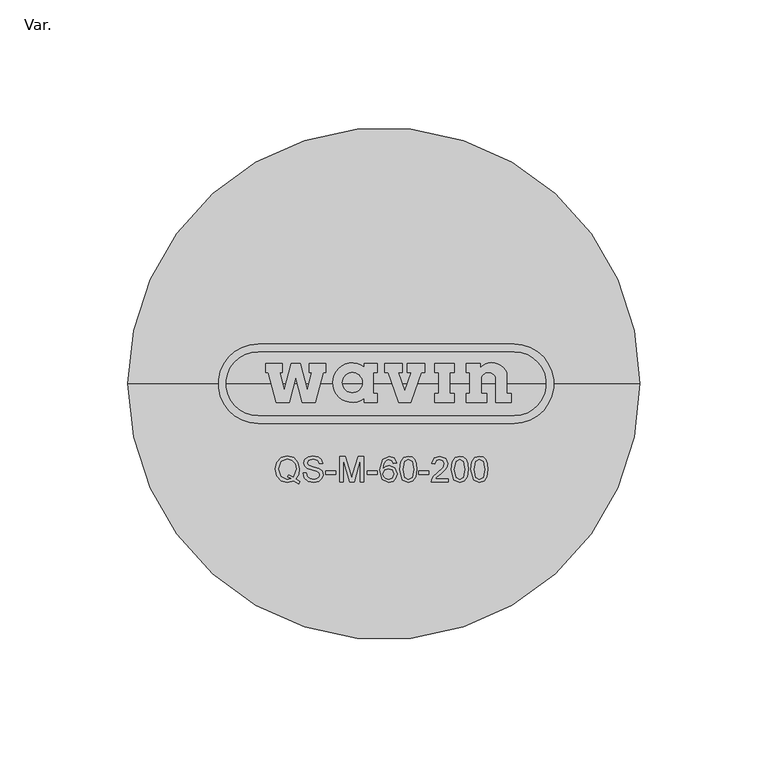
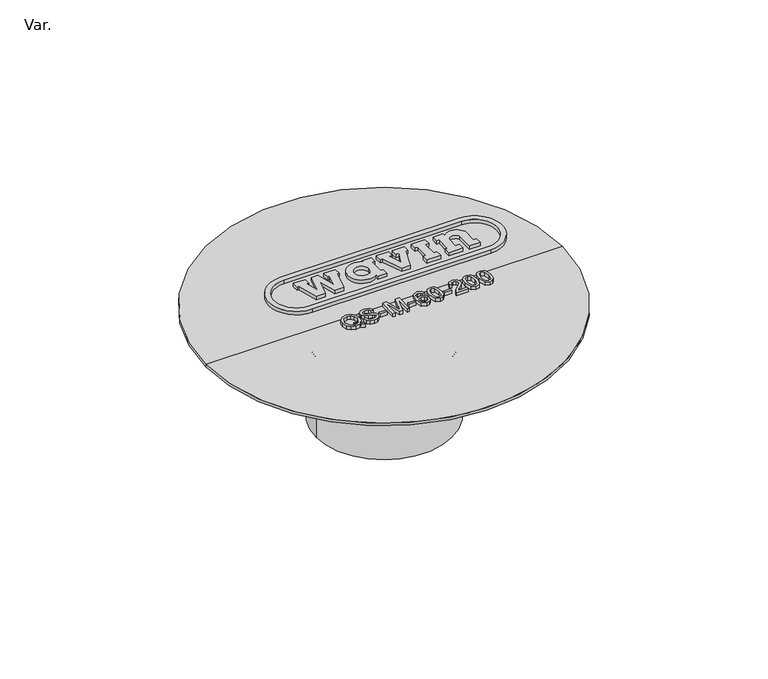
"""IFC4 building model written with IfcOpenShell, lengths in millimetres: sanitary terminal geometry, AmancoWavin_AquipamentosHidráulicos_QSBocaldeCaptação : Var.."""

from ifc_helpers import new_model, si_unit, point, frame, frame_2d, origin, place, context, project, spatial, polyline, circle_curve, ellipse_curve, trimmed, segment, composite_curve, outline, extrude, source, transform, mapped, element, save
from ifc_brep_helpers import plane_surface, cylinder_surface, revolved_surface, advanced_brep


def var_37cc0f51(model_context):
    return source(origin(), model_context, "Body", "SolidModel", [
        extrude(outline(composite_curve([segment(trimmed(circle_curve(frame_2d((50.8526232, 0.0)), 15.4893844), [point((50.8526232, 15.4893844))], [point((50.8526232, -15.4893844))], False, "CARTESIAN"), True, "CONTINUOUS"), segment(polyline([(50.8526232, -15.4893844), (-49.1473768, -15.4893844)]), True, "CONTINUOUS"), segment(trimmed(circle_curve(frame_2d((-49.1473768, 0.0)), 15.4893844), [point((-49.1473768, -15.4893844))], [point((-49.1473768, 15.4893844))], False, "CARTESIAN"), True, "CONTINUOUS"), segment(polyline([(-49.1473768, 15.4893844), (50.8526232, 15.4893844)]), True, "CONTINUOUS")], self_intersect=False), holes=[composite_curve([segment(polyline([(50.8526232, 12.4893844), (-49.1473768, 12.4893844)]), True, "CONTINUOUS"), segment(trimmed(circle_curve(frame_2d((-49.1473768, 0.0)), 12.4893844), [point((-49.1473768, 12.4893844))], [point((-49.1473768, -12.4893844))], True, "CARTESIAN"), True, "CONTINUOUS"), segment(polyline([(-49.1473768, -12.4893844), (50.8526232, -12.4893844)]), True, "CONTINUOUS"), segment(trimmed(circle_curve(frame_2d((50.8526232, 0.0)), 12.4893844), [point((50.8526232, -12.4893844))], [point((50.8526232, 12.4893844))], True, "CARTESIAN"), True, "CONTINUOUS")], self_intersect=False)]), frame((0.0, 0.0, 23.96875), z_axis=(0.0, 0.0, 1.0), x_axis=(1.0, 0.0, 0.0)), (0.0, 0.0, 1.0), 2.0),
        extrude(outline(polyline([(-39.7705089, 7.8291409), (-39.7705089, 4.3291409), (-40.7705089, 4.3291409), (-38.9632887, -2.4154967), (-36.2182463, 7.8291409), (-32.7477543, 7.8291409), (-30.0027119, -2.4154967), (-28.1954917, 4.3291409), (-29.1954917, 4.3291409), (-29.1954917, 7.8291409), (-22.6954917, 7.8291409), (-22.6954917, 4.3291409), (-23.6954917, 4.3291409), (-26.7948098, -7.2376719), (-31.8948098, -7.2376719), (-34.4830003, 2.4215864), (-37.0711907, -7.2376719), (-42.1711907, -7.2376719), (-45.2705089, 4.3291409), (-46.2705089, 4.3291409), (-46.2705089, 7.8291409), (-39.7705089, 7.8291409)])), frame((0.0, 0.0, 23.96875), z_axis=(0.0, 0.0, 1.0), x_axis=(1.0, 0.0, 0.0)), (0.0, 0.0, 1.0), 2.0),
        extrude(outline(composite_curve([segment(trimmed(circle_curve(frame_2d((-12.3300246, 0.4291409)), 7.7), [point((-7.6954917, -5.7199325))], [point((-7.6954917, 6.5782144))], False, "CARTESIAN"), True, "CONTINUOUS"), segment(polyline([(-7.6954917, 6.5782144), (-7.6954917, 7.8291409), (-2.6954917, 7.8291409), (-2.6954917, 4.3291409), (-4.1758448, 4.3291409), (-4.1758448, -3.7257164), (-2.6954917, -3.7257164), (-2.6954917, -7.2376719), (-7.6954917, -7.2376719), (-7.6954917, -5.7199325)]), True, "CONTINUOUS")], self_intersect=False), holes=[composite_curve([segment(trimmed(circle_curve(frame_2d((-12.3300246, 0.4291409)), 3.9), [point((-8.4300246, 0.4291409))], [point((-16.2300246, 0.4291409))], True, "CARTESIAN"), True, "CONTINUOUS"), segment(trimmed(circle_curve(frame_2d((-12.3300246, 0.4291409)), 3.9), [point((-16.2300246, 0.4291409))], [point((-8.4300246, 0.4291409))], True, "CARTESIAN"), True, "CONTINUOUS")], self_intersect=False)]), frame((0.0, 0.0, 23.96875), z_axis=(0.0, 0.0, 1.0), x_axis=(1.0, 0.0, 0.0)), (0.0, 0.0, 1.0), 2.0),
        extrude(outline(polyline([(7.1044911, 7.8291409), (7.1044911, 4.3291409), (5.4794911, 4.3291409), (8.1144667, -2.9103949), (10.7494422, 4.3291409), (9.1244422, 4.3291409), (9.1244422, 7.8291409), (15.9369422, 7.8291409), (15.9369422, 4.3291409), (14.6244422, 4.3291409), (10.4144667, -7.2376719), (5.8144667, -7.2376719), (1.6044911, 4.3291409), (0.2919911, 4.3291409), (0.2919911, 7.8291409), (7.1044911, 7.8291409)])), frame((0.0, 0.0, 23.96875), z_axis=(0.0, 0.0, 1.0), x_axis=(1.0, 0.0, 0.0)), (0.0, 0.0, 1.0), 2.0),
        extrude(outline(polyline([(27.5254827, 7.8291409), (27.5254827, 4.3291409), (25.6649059, 4.3291409), (25.6649059, -3.7257164), (27.5254827, -3.7257164), (27.5254827, -7.2376719), (19.8599065, -7.2376719), (19.8599065, -3.7257164), (21.3483679, -3.7257164), (21.3483679, 4.3291409), (19.8599065, 4.3291409), (19.8599065, 7.8291409), (27.5254827, 7.8291409)])), frame((0.0, 0.0, 23.96875), z_axis=(0.0, 0.0, 1.0), x_axis=(1.0, 0.0, 0.0)), (0.0, 0.0, 1.0), 2.0),
        extrude(outline(composite_curve([segment(polyline([(32.2129827, 4.3291409), (32.2129827, 7.8291409), (37.5254827, 7.8291409), (37.5254827, 6.1216703)]), True, "CONTINUOUS"), segment(trimmed(circle_curve(frame_2d((42.1947832, 1.9648863)), 6.2514974), [point((37.5254827, 6.1216703))], [point((47.981969, 4.3291409))], False, "CARTESIAN"), True, "CONTINUOUS"), segment(polyline([(47.981969, 4.3291409), (47.981969, -3.7257164), (49.7436066, -3.7257164), (49.7436066, -7.2376719), (43.6757439, -7.2376719), (43.6757439, 2.455043)]), True, "CONTINUOUS"), segment(trimmed(circle_curve(frame_2d((40.8074114, 1.2445059)), 3.1133152), [point((43.6757439, 2.455043))], [point((37.9390789, 2.455043))], True, "CARTESIAN"), True, "CONTINUOUS"), segment(polyline([(37.9390789, 2.455043), (37.9390789, -3.7257164), (40.0652776, -3.7257164), (40.0652776, -7.2376719), (32.2129827, -7.2376719), (32.2129827, -3.7257164), (33.4254827, -3.7257164), (33.4254827, 4.3291409), (32.2129827, 4.3291409)]), True, "CONTINUOUS")], self_intersect=False)), frame((0.0, 0.0, 23.96875), z_axis=(0.0, 0.0, 1.0), x_axis=(1.0, 0.0, 0.0)), (0.0, 0.0, 1.0), 2.0),
        advanced_brep(
        [(-100.0, 0.0, 0.0), (100.0, 0.0, 0.0), (0.0, 0.0, 0.0), (-100.0, 0.0, 1.5), (100.0, 0.0, 1.5), (0.0, 0.0, 1.5)],
        [
            (0, 1, circle_curve(frame((0.0, 0.0, 0.0), z_axis=(0.0, 0.0, -1.0), x_axis=(1.0, 0.0, 0.0)), 100.0)),
            (1, 2),
            (2, 0),
            (1, 0, circle_curve(frame((0.0, 0.0, 0.0), z_axis=(0.0, 0.0, -1.0), x_axis=(1.0, 0.0, 0.0)), 100.0)),
            (3, 4, circle_curve(frame((0.0, 0.0, 1.5), z_axis=(0.0, 0.0, -1.0), x_axis=(1.0, 0.0, 0.0)), 100.0)),
            (4, 1),
            (0, 3),
            (4, 3, circle_curve(frame((0.0, 0.0, 1.5), z_axis=(0.0, 0.0, -1.0), x_axis=(1.0, 0.0, 0.0)), 100.0)),
            (5, 4),
            (3, 5),
        ],
        [
            plane_surface(frame((0.0, 0.0, 0.0), z_axis=(0.0, 0.0, -1.0), x_axis=(1.0, 0.0, 0.0))),
            cylinder_surface(frame((0.0, 0.0, -5.0000199), z_axis=(0.0, 0.0, 1.0), x_axis=(1.0, 0.0, 0.0)), 100.0),
            plane_surface(frame((0.0, 0.0, 1.5), z_axis=(0.0, 0.0, 1.0), x_axis=(1.0, 0.0, 0.0))),
        ],
        [
            (0, [[1, 2, 3]]),
            (0, [[4, -3, -2]]),
            (1, [[5, 6, -1, 7]]),
            (1, [[8, -7, -4, -6]]),
            (2, [[9, -5, 10]]),
            (2, [[-10, -8, -9]]),
        ],
    ),
        advanced_brep(
        [(36.1500013, 0.0, -61.0), (-36.1500013, 0.0, -61.0), (-38.1500013, 0.0, -63.2980538), (38.1500013, 0.0, -63.2980538), (0.0, 0.0, -61.0), (62.9019224, 0.0, 0.4999995), (-62.9019224, 0.0, 0.4999995), (0.0, 0.0, 0.4999995), (43.4999988, 0.0, -10.7017063), (-43.4999988, 0.0, -10.7017063), (35.9999985, 0.0, -23.692088), (-35.9999985, 0.0, -23.692088), (35.9999985, 0.0, -26.0000021), (-35.9999985, 0.0, -26.0000021), (38.1500013, 0.0, -26.0000021), (-38.1500013, 0.0, -26.0000021), (38.1500013, 0.0, -27.5000014), (-38.1500013, 0.0, -27.5000014), (39.9999991, 0.0, -27.5000014), (-39.9999991, 0.0, -27.5000014), (39.9999991, 0.0, -36.0), (-39.9999991, 0.0, -36.0), (38.1500013, 0.0, -36.0), (-38.1500013, 0.0, -36.0)],
        [
            (0, 1, circle_curve(frame((0.0, 0.0, -61.0), z_axis=(0.0, 0.0, 1.0), x_axis=(-1.0, 0.0, 0.0)), 36.1500013)),
            (1, 2),
            (2, 3, circle_curve(frame((0.0, 0.0, -63.2980538), z_axis=(0.0, 0.0, -1.0), x_axis=(-1.0, 0.0, 0.0)), 38.1500013)),
            (3, 0),
            (1, 0, circle_curve(frame((0.0, 0.0, -61.0), z_axis=(0.0, 0.0, 1.0), x_axis=(-1.0, 0.0, 0.0)), 36.1500013)),
            (3, 2, circle_curve(frame((0.0, 0.0, -63.2980538), z_axis=(0.0, 0.0, -1.0), x_axis=(-1.0, 0.0, 0.0)), 38.1500013)),
            (4, 1),
            (0, 4),
            (5, 6, circle_curve(frame((0.0, 0.0, 0.4999995), z_axis=(0.0, 0.0, 1.0), x_axis=(-1.0, 0.0, 0.0)), 62.9019224)),
            (6, 7),
            (7, 5),
            (6, 5, circle_curve(frame((0.0, 0.0, 0.4999995), z_axis=(0.0, 0.0, 1.0), x_axis=(-1.0, 0.0, 0.0)), 62.9019224)),
            (8, 9, circle_curve(frame((0.0, 0.0, -10.7017063), z_axis=(0.0, 0.0, 1.0), x_axis=(-1.0, 0.0, 0.0)), 43.4999988)),
            (9, 6),
            (5, 8),
            (9, 8, circle_curve(frame((0.0, 0.0, -10.7017063), z_axis=(0.0, 0.0, 1.0), x_axis=(-1.0, 0.0, 0.0)), 43.4999988)),
            (10, 11, circle_curve(frame((0.0, 0.0, -23.692088), z_axis=(0.0, 0.0, 1.0), x_axis=(-1.0, 0.0, 0.0)), 35.9999985)),
            (11, 9, circle_curve(frame((-50.9999992, 0.0, -23.692088), z_axis=(0.0, -1.0, 0.0), x_axis=(1.0, 0.0, 0.0)), 15.0000007)),
            (8, 10, circle_curve(frame((50.9999992, 0.0, -23.692088), z_axis=(0.0, -1.0, 0.0), x_axis=(-1.0, 0.0, 0.0)), 15.0000007)),
            (11, 10, circle_curve(frame((0.0, 0.0, -23.692088), z_axis=(0.0, 0.0, 1.0), x_axis=(-1.0, 0.0, 0.0)), 35.9999985)),
            (12, 13, circle_curve(frame((0.0, 0.0, -26.0000021), z_axis=(0.0, 0.0, 1.0), x_axis=(-1.0, 0.0, 0.0)), 35.9999985)),
            (13, 11),
            (10, 12),
            (13, 12, circle_curve(frame((0.0, 0.0, -26.0000021), z_axis=(0.0, 0.0, 1.0), x_axis=(-1.0, 0.0, 0.0)), 35.9999985)),
            (14, 15, circle_curve(frame((0.0, 0.0, -26.0000021), z_axis=(0.0, 0.0, 1.0), x_axis=(-1.0, 0.0, 0.0)), 38.1500013)),
            (15, 13),
            (12, 14),
            (15, 14, circle_curve(frame((0.0, 0.0, -26.0000021), z_axis=(0.0, 0.0, 1.0), x_axis=(-1.0, 0.0, 0.0)), 38.1500013)),
            (16, 17, circle_curve(frame((0.0, 0.0, -27.5000014), z_axis=(0.0, 0.0, 1.0), x_axis=(-1.0, 0.0, 0.0)), 38.1500013)),
            (17, 15),
            (14, 16),
            (17, 16, circle_curve(frame((0.0, 0.0, -27.5000014), z_axis=(0.0, 0.0, 1.0), x_axis=(-1.0, 0.0, 0.0)), 38.1500013)),
            (18, 19, circle_curve(frame((0.0, 0.0, -27.5000014), z_axis=(0.0, 0.0, 1.0), x_axis=(-1.0, 0.0, 0.0)), 39.9999991)),
            (19, 17),
            (16, 18),
            (19, 18, circle_curve(frame((0.0, 0.0, -27.5000014), z_axis=(0.0, 0.0, 1.0), x_axis=(-1.0, 0.0, 0.0)), 39.9999991)),
            (20, 21, circle_curve(frame((0.0, 0.0, -36.0), z_axis=(0.0, 0.0, 1.0), x_axis=(-1.0, 0.0, 0.0)), 39.9999991)),
            (21, 19),
            (18, 20),
            (21, 20, circle_curve(frame((0.0, 0.0, -36.0), z_axis=(0.0, 0.0, 1.0), x_axis=(-1.0, 0.0, 0.0)), 39.9999991)),
            (22, 23, circle_curve(frame((0.0, 0.0, -36.0), z_axis=(0.0, 0.0, 1.0), x_axis=(-1.0, 0.0, 0.0)), 38.1500013)),
            (23, 21),
            (20, 22),
            (23, 22, circle_curve(frame((0.0, 0.0, -36.0), z_axis=(0.0, 0.0, 1.0), x_axis=(-1.0, 0.0, 0.0)), 38.1500013)),
            (2, 23),
            (22, 3),
        ],
        [
            revolved_surface(polyline([(-38.1500013, 0.0, -63.2980538), (-36.1500013, 0.0, -61.0)]), (0.0, 0.0, -61.0000003), (0.0, 0.0, -1.0)),
            plane_surface(frame((0.0, 0.0, -61.0), z_axis=(0.0, 0.0, -1.0), x_axis=(-1.0, 0.0, 0.0))),
            plane_surface(frame((0.0, 0.0, 0.4999995), z_axis=(0.0, 0.0, 1.0), x_axis=(-1.0, 0.0, 0.0))),
            revolved_surface(polyline([(-62.9019224, 0.0, 0.4999995), (-43.4999988, 0.0, -10.7017063)]), (0.0, 0.0, -61.0000003), (0.0, 0.0, -1.0)),
            revolved_surface(trimmed(ellipse_curve(frame((-50.9999992, 0.0, -23.692088), z_axis=(0.0, 1.0, 0.0), x_axis=(1.0, 0.0, 0.0)), 15.0000007, 15.0000007), [point((-43.4999988, 0.0, -10.7017063))], [point((-35.9999985, 0.0, -23.692088))], True, "CARTESIAN"), (0.0, 0.0, -61.0000003), (0.0, 0.0, -1.0)),
            cylinder_surface(frame((0.0, 0.0, -61.0000003), z_axis=(0.0, 0.0, -1.0), x_axis=(-1.0, 0.0, 0.0)), 35.9999985),
            plane_surface(frame((0.0, 0.0, -26.0000021), z_axis=(0.0, 0.0, 1.0), x_axis=(-1.0, 0.0, 0.0))),
            cylinder_surface(frame((0.0, 0.0, -61.0000003), z_axis=(0.0, 0.0, -1.0), x_axis=(-1.0, 0.0, 0.0)), 38.1500013),
            plane_surface(frame((0.0, 0.0, -27.5000014), z_axis=(0.0, 0.0, 1.0), x_axis=(-1.0, 0.0, 0.0))),
            cylinder_surface(frame((0.0, 0.0, -61.0000003), z_axis=(0.0, 0.0, -1.0), x_axis=(-1.0, 0.0, 0.0)), 39.9999991),
            plane_surface(frame((0.0, 0.0, -36.0), z_axis=(0.0, 0.0, -1.0), x_axis=(-1.0, 0.0, 0.0))),
        ],
        [
            (0, [[1, 2, 3, 4]]),
            (0, [[5, -4, 6, -2]]),
            (1, [[7, -1, 8]]),
            (1, [[-8, -5, -7]]),
            (2, [[9, 10, 11]]),
            (2, [[12, -11, -10]]),
            (3, [[13, 14, -9, 15]]),
            (3, [[16, -15, -12, -14]]),
            (4, [[17, 18, -13, 19]]),
            (4, [[20, -19, -16, -18]]),
            (5, [[21, 22, -17, 23]]),
            (5, [[24, -23, -20, -22]]),
            (6, [[25, 26, -21, 27]]),
            (6, [[28, -27, -24, -26]]),
            (7, [[29, 30, -25, 31]]),
            (7, [[32, -31, -28, -30]]),
            (8, [[33, 34, -29, 35]]),
            (8, [[36, -35, -32, -34]]),
            (9, [[37, 38, -33, 39]]),
            (9, [[40, -39, -36, -38]]),
            (10, [[41, 42, -37, 43]]),
            (10, [[44, -43, -40, -42]]),
            (7, [[-3, 45, -41, 46]]),
            (7, [[-6, -46, -44, -45]]),
        ],
    ),
        extrude(outline(polyline([(-34.4411637, -37.2095962), (-32.8837966, -38.2568336), (-33.222248, -39.1765386), (-35.2897448, -38.0017687), (-37.7300287, -38.5707596), (-40.1752177, -37.9147033), (-41.8662486, -36.0703883), (-42.4585386, -33.3934336), (-41.8674749, -30.6968586), (-40.1850279, -28.8464122), (-37.7422915, -28.2112026), (-35.2836135, -28.8611274), (-33.6146555, -30.680917), (-33.0407596, -33.3198572), (-33.3890212, -35.5148865), (-34.4411637, -37.2095962)]), holes=[polyline([(-37.3842197, -35.5394119), (-35.4761384, -36.4934526), (-34.2964634, -33.3836234), (-34.7133964, -31.322258), (-35.9335383, -29.953737), (-37.7349338, -29.4669065), (-40.216911, -30.4516039), (-41.2028348, -33.3909811), (-40.2279475, -36.3009277), (-37.7373864, -37.3150557), (-36.3860332, -37.0575383), (-37.7079558, -36.5008102), (-37.3842197, -35.5394119)])]), frame((0.0, 0.0, 23.96875), z_axis=(0.0, 0.0, 1.0), x_axis=(1.0, 0.0, 0.0)), (0.0, 0.0, 1.0), 2.0),
        extrude(outline(polyline([(-31.6280927, -34.9606109), (-30.3723888, -34.9606109), (-29.9677186, -36.2175411), (-28.9793423, -37.0121662), (-27.4734787, -37.3150557), (-26.1613663, -37.0857426), (-25.3140114, -36.4554381), (-25.0356474, -35.6129883), (-25.2441138, -34.8293997), (-26.0976, -34.2591826), (-27.9259736, -33.7797097), (-29.8941422, -33.1604417), (-30.9622263, -32.2260214), (-31.3141667, -30.9776752), (-30.8788397, -29.5564244), (-29.6071943, -28.5533328), (-27.7457114, -28.2112026), (-25.7591486, -28.5692744), (-24.4347734, -29.6214169), (-23.9369065, -31.1934993), (-25.1926103, -31.1934993), (-25.9038489, -29.9034598), (-27.6966605, -29.4669065), (-29.4943771, -29.8985547), (-30.0584629, -30.940887), (-29.6586978, -31.811541), (-27.6083688, -32.5129694), (-25.3863615, -33.1432739), (-24.1711247, -34.1610807), (-23.7799435, -35.5811052), (-24.2299858, -37.08329), (-25.5249304, -38.1795784), (-27.4244278, -38.5707596), (-29.6672817, -38.1489215), (-31.0860799, -36.8785024), (-31.6280927, -34.9606109)])), frame((0.0, 0.0, 23.96875), z_axis=(0.0, 0.0, 1.0), x_axis=(1.0, 0.0, 0.0)), (0.0, 0.0, 1.0), 2.0),
        extrude(outline(polyline([(-22.6812026, -35.4314999), (-22.6812026, -34.175796), (-18.757128, -34.175796), (-18.757128, -35.4314999), (-22.6812026, -35.4314999)])), frame((0.0, 0.0, 23.96875), z_axis=(0.0, 0.0, 1.0), x_axis=(1.0, 0.0, 0.0)), (0.0, 0.0, 1.0), 2.0),
        extrude(outline(polyline([(-17.1874981, -38.4137966), (-17.1874981, -28.3681656), (-15.0341622, -28.3681656), (-12.974023, -35.4486677), (-12.5570901, -36.9275533), (-12.108274, -35.3260404), (-10.0873756, -28.3681656), (-7.926682, -28.3681656), (-7.926682, -38.4137966), (-9.1823859, -38.4137966), (-9.1823859, -29.6238694), (-11.7060564, -38.4137966), (-13.4056712, -38.4137966), (-15.9317942, -29.6238694), (-15.9317942, -38.4137966), (-17.1874981, -38.4137966)])), frame((0.0, 0.0, 23.96875), z_axis=(0.0, 0.0, 1.0), x_axis=(1.0, 0.0, 0.0)), (0.0, 0.0, 1.0), 2.0),
        extrude(outline(polyline([(-6.5140152, -35.4314999), (-6.5140152, -34.175796), (-2.5899406, -34.175796), (-2.5899406, -35.4314999), (-6.5140152, -35.4314999)])), frame((0.0, 0.0, 23.96875), z_axis=(0.0, 0.0, 1.0), x_axis=(1.0, 0.0, 0.0)), (0.0, 0.0, 1.0), 2.0),
        extrude(outline(polyline([(4.9442827, -31.0365363), (3.6885788, -31.1934993), (3.2127848, -30.1462619), (1.9546284, -29.6238694), (0.8215518, -29.9279852), (-0.0356132, -31.0696457), (-0.3924588, -33.3075945), (0.714866, -32.3057292), (2.0870659, -31.9783142), (4.2207814, -32.8734937), (5.1012457, -35.1862452), (4.6867653, -36.9189694), (3.5463311, -38.1452427), (1.9006723, -38.5707596), (-0.6585601, -37.4425881), (-1.6481626, -33.7245274), (-0.5494218, -29.5135048), (2.0331099, -28.3681656), (4.0172201, -29.0769515), (4.9442827, -31.0365363)]), holes=[polyline([(-0.3924588, -35.1666248), (-0.101832, -36.2543293), (0.6707202, -37.0440493), (1.8025705, -37.3150557), (3.2826824, -36.7534225), (3.8455418, -35.2279385), (3.29004, -33.767447), (1.751067, -33.2340181), (0.2317143, -33.767447), (-0.3924588, -35.1666248)])]), frame((0.0, 0.0, 23.96875), z_axis=(0.0, 0.0, 1.0), x_axis=(1.0, 0.0, 0.0)), (0.0, 0.0, 1.0), 2.0),
        extrude(outline(polyline([(6.1999866, -33.4719151), (6.5690949, -30.5815889), (7.6653832, -28.9150835), (9.4962093, -28.3681656), (10.9628321, -28.6919017), (11.9757339, -29.6250957), (12.5643451, -31.111339), (12.7924319, -33.4719151), (12.4270025, -36.3499786), (11.334393, -38.0201628), (9.4962093, -38.5707596), (7.2006256, -37.6142664), (6.1999866, -33.4719151)]), holes=[polyline([(7.4556905, -33.4694626), (8.0443017, -36.5878756), (9.4962093, -37.3150557), (10.9481169, -36.5854231), (11.5367281, -33.4694626), (10.9677372, -30.3866114), (9.481494, -29.6238694), (8.063922, -30.2958672), (7.4556905, -33.4694626)])]), frame((0.0, 0.0, 23.96875), z_axis=(0.0, 0.0, 1.0), x_axis=(1.0, 0.0, 0.0)), (0.0, 0.0, 1.0), 2.0),
        extrude(outline(polyline([(13.5772469, -35.4314999), (13.5772469, -34.175796), (17.5013215, -34.175796), (17.5013215, -35.4314999), (13.5772469, -35.4314999)])), frame((0.0, 0.0, 23.96875), z_axis=(0.0, 0.0, 1.0), x_axis=(1.0, 0.0, 0.0)), (0.0, 0.0, 1.0), 2.0),
        extrude(outline(polyline([(25.0355447, -37.1580927), (25.0355447, -38.4137966), (18.4430994, -38.4137966), (18.5779894, -37.5480476), (19.3419577, -36.2150885), (20.9152664, -34.7595021), (23.0820913, -32.6674798), (23.6228779, -31.2450028), (23.1115219, -30.0935321), (21.7761103, -29.6238694), (20.38429, -30.0824957), (19.8557662, -31.3504623), (18.6000624, -31.1934993), (19.5626869, -29.0916668), (21.8030883, -28.3681656), (24.0508473, -29.1726009), (24.8785818, -31.1689738), (24.6554, -32.3596852), (23.9135047, -33.5908636), (22.1145617, -35.3113251), (20.6700117, -36.5192043), (20.1034735, -37.1580927), (25.0355447, -37.1580927)])), frame((0.0, 0.0, 23.96875), z_axis=(0.0, 0.0, 1.0), x_axis=(1.0, 0.0, 0.0)), (0.0, 0.0, 1.0), 2.0),
        extrude(outline(polyline([(26.2912486, -33.4719151), (26.6603569, -30.5815889), (27.7566452, -28.9150835), (29.5874713, -28.3681656), (31.0540942, -28.6919017), (32.0669959, -29.6250957), (32.6556071, -31.111339), (32.883694, -33.4719151), (32.5182645, -36.3499786), (31.425655, -38.0201628), (29.5874713, -38.5707596), (27.2918876, -37.6142664), (26.2912486, -33.4719151)]), holes=[polyline([(27.5469525, -33.4694626), (28.1355637, -36.5878756), (29.5874713, -37.3150557), (31.0393789, -36.5854231), (31.6279901, -33.4694626), (31.0589993, -30.3866114), (29.572756, -29.6238694), (28.1551841, -30.2958672), (27.5469525, -33.4694626)])]), frame((0.0, 0.0, 23.96875), z_axis=(0.0, 0.0, 1.0), x_axis=(1.0, 0.0, 0.0)), (0.0, 0.0, 1.0), 2.0),
        extrude(outline(polyline([(33.9824349, -33.4719151), (34.3515431, -30.5815889), (35.4478315, -28.9150835), (37.2786575, -28.3681656), (38.7452804, -28.6919017), (39.7581822, -29.6250957), (40.3467934, -31.111339), (40.5748802, -33.4719151), (40.2094508, -36.3499786), (39.1168412, -38.0201628), (37.2786575, -38.5707596), (34.9830739, -37.6142664), (33.9824349, -33.4719151)]), holes=[polyline([(35.2381387, -33.4694626), (35.8267499, -36.5878756), (37.2786575, -37.3150557), (38.7305651, -36.5854231), (39.3191763, -33.4694626), (38.7501855, -30.3866114), (37.2639423, -29.6238694), (35.8463703, -30.2958672), (35.2381387, -33.4694626)])]), frame((0.0, 0.0, 23.96875), z_axis=(0.0, 0.0, 1.0), x_axis=(1.0, 0.0, 0.0)), (0.0, 0.0, 1.0), 2.0),
    ])


if __name__ == "__main__":
    model = new_model("IFC4")
    model_context = context("Model", 3, world=origin())
    ifc_project = project(units=[si_unit("LENGTHUNIT", "METRE", prefix="MILLI")], contexts=[model_context])
    site = spatial("IfcSite", under=ifc_project)
    building = spatial("IfcBuilding", under=site)
    placement = place(None, origin())
    var_shape = var_37cc0f51(model_context)
    element("IfcSanitaryTerminal", 1, ObjectType="AmancoWavin_AquipamentosHidráulicos_QSBocaldeCaptação : Var.", at=placement, inside=building, context=model_context, shape_type="MappedRepresentation", body=[
        mapped(var_shape, transform((0.0, 0.0, 0.0), x_axis=(1.0, 0.0, 0.0), y_axis=(0.0, 1.0, 0.0), z_axis=(0.0, 0.0, 1.0))),
    ])
    save(model, "model.ifc")
